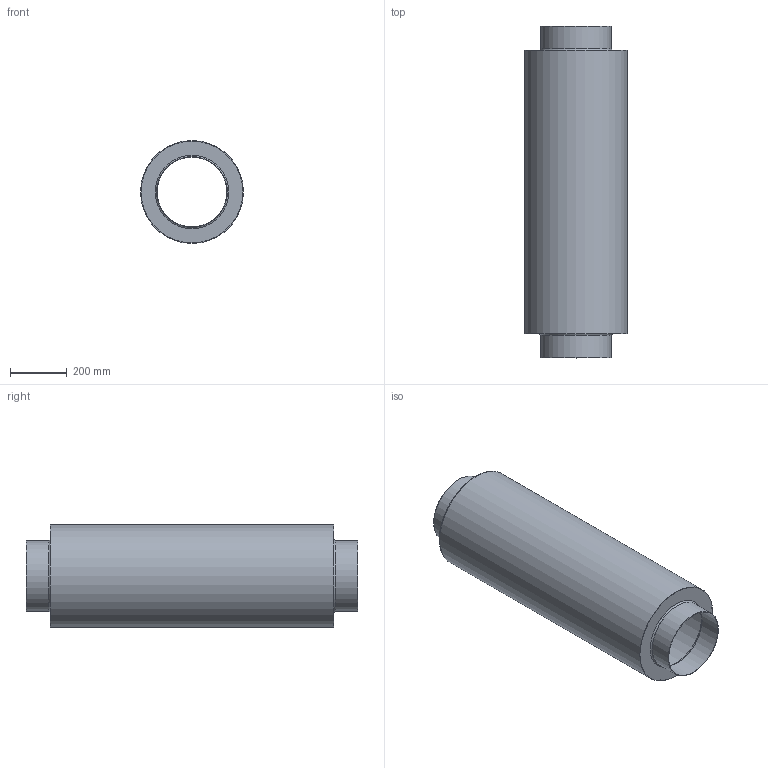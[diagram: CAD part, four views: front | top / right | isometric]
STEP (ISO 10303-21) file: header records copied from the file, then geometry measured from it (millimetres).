
FILE_DESCRIPTION(/* description */ (''),/* implementation_level */ '2;1');
FILE_NAME(/* name */ 'Z:\Output\FSD_250-00680-001.stp',/* time_stamp */ '2017-07-10T15:32:46+02:00',/* author */ ('engineering1'),/* organization */ (''),/* preprocessor_version */ 'ST-DEVELOPER v16.5',/* originating_system */ 'Autodesk Inventor 2017',/* authorisation */ '');
FILE_SCHEMA (('AUTOMOTIVE_DESIGN { 1 0 10303 214 3 1 1 }'));
Length unit declared in the file: millimetre
Products named in the file (1): FSD-1
Bounding box: 363 x 1170 x 363 mm (x, y, z)
Volume: 2740200.8 mm3; surface area: 2743319.3 mm2
Topology: 1 solids, 1 shells, 16 faces, 28 edges, 18 vertices
Faces by surface type: plane 6, cylinder 6, torus 4
Full cylindrical faces by diameter (mm): 245.5 x2, 249.5 x2, 359 x1, 363 x1
Entity records: 381 total; most frequent: DIRECTION 66, CARTESIAN_POINT 49, AXIS2_PLACEMENT_3D 33, EDGE_LOOP 32, ORIENTED_EDGE 32, STYLED_ITEM 17, FACE_BOUND 16, FACE_OUTER_BOUND 16
